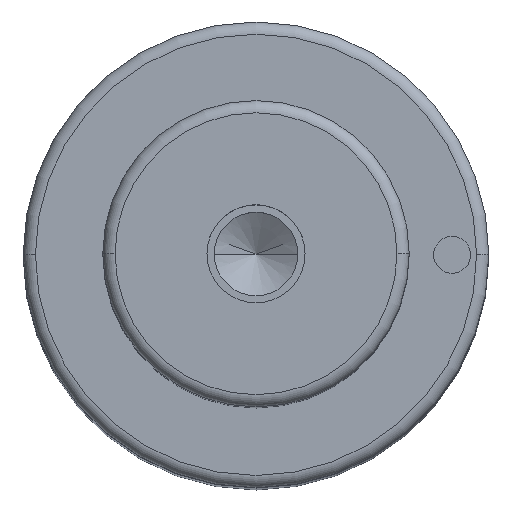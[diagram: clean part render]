
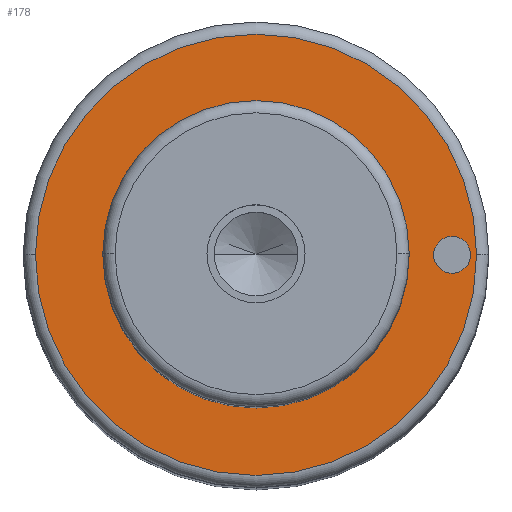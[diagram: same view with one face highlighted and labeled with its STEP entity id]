
A CAD part, top view. The second image highlights one B-rep face of the part: STEP entity #178.
In plain terms, the highlighted planar face has unit normal (0, 0, 1).
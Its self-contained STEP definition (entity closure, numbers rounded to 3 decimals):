
#105=PLANE('',#866);
#115=FACE_BOUND('',#283,.T.);
#116=FACE_BOUND('',#284,.T.);
#117=FACE_BOUND('',#285,.T.);
#178=ADVANCED_FACE('',(#115,#116,#117),#105,.T.);
#283=EDGE_LOOP('',(#473,#474));
#284=EDGE_LOOP('',(#475,#476));
#285=EDGE_LOOP('',(#477,#478));
#333=CIRCLE('',#834,12.5);
#334=CIRCLE('',#836,12.5);
#338=CIRCLE('',#841,18.);
#339=CIRCLE('',#843,18.);
#351=CIRCLE('',#864,1.5);
#352=CIRCLE('',#865,1.5);
#473=ORIENTED_EDGE('',*,*,#666,.F.);
#474=ORIENTED_EDGE('',*,*,#667,.F.);
#475=ORIENTED_EDGE('',*,*,#685,.F.);
#476=ORIENTED_EDGE('',*,*,#686,.F.);
#477=ORIENTED_EDGE('',*,*,#662,.T.);
#478=ORIENTED_EDGE('',*,*,#660,.T.);
#590=VERTEX_POINT('',#1233);
#591=VERTEX_POINT('',#1235);
#592=VERTEX_POINT('',#1241);
#595=VERTEX_POINT('',#1246);
#604=VERTEX_POINT('',#1285);
#605=VERTEX_POINT('',#1286);
#660=EDGE_CURVE('',#591,#590,#333,.T.);
#662=EDGE_CURVE('',#590,#591,#334,.T.);
#666=EDGE_CURVE('',#595,#592,#338,.T.);
#667=EDGE_CURVE('',#592,#595,#339,.T.);
#685=EDGE_CURVE('',#604,#605,#351,.T.);
#686=EDGE_CURVE('',#605,#604,#352,.T.);
#834=AXIS2_PLACEMENT_3D('',#1234,#985,#986);
#836=AXIS2_PLACEMENT_3D('',#1238,#990,#991);
#841=AXIS2_PLACEMENT_3D('',#1247,#1000,#1001);
#843=AXIS2_PLACEMENT_3D('',#1249,#1004,#1005);
#864=AXIS2_PLACEMENT_3D('',#1284,#1052,#1053);
#865=AXIS2_PLACEMENT_3D('',#1287,#1054,#1055);
#866=AXIS2_PLACEMENT_3D('',#1288,#1056,#1057);
#985=DIRECTION('',(0.,0.,-1.));
#986=DIRECTION('',(0.,1.,0.));
#990=DIRECTION('',(0.,0.,-1.));
#991=DIRECTION('',(0.,-1.,0.));
#1000=DIRECTION('',(0.,0.,-1.));
#1001=DIRECTION('',(0.,1.,0.));
#1004=DIRECTION('',(0.,0.,-1.));
#1005=DIRECTION('',(0.,-1.,0.));
#1052=DIRECTION('',(0.,0.,1.));
#1053=DIRECTION('',(0.,1.,0.));
#1054=DIRECTION('',(0.,0.,1.));
#1055=DIRECTION('',(0.,-1.,0.));
#1056=DIRECTION('',(0.,0.,1.));
#1057=DIRECTION('',(0.,-1.,0.));
#1233=CARTESIAN_POINT('',(-12.5,0.,108.));
#1234=CARTESIAN_POINT('',(0.,0.,108.));
#1235=CARTESIAN_POINT('',(12.5,0.,108.));
#1238=CARTESIAN_POINT('',(0.,0.,108.));
#1241=CARTESIAN_POINT('',(-18.,0.,108.));
#1246=CARTESIAN_POINT('',(18.,0.,108.));
#1247=CARTESIAN_POINT('',(0.,0.,108.));
#1249=CARTESIAN_POINT('',(0.,0.,108.));
#1284=CARTESIAN_POINT('',(16.,0.,108.));
#1285=CARTESIAN_POINT('',(14.5,0.,108.));
#1286=CARTESIAN_POINT('',(17.5,0.,108.));
#1287=CARTESIAN_POINT('',(16.,0.,108.));
#1288=CARTESIAN_POINT('',(0.,0.,108.));
